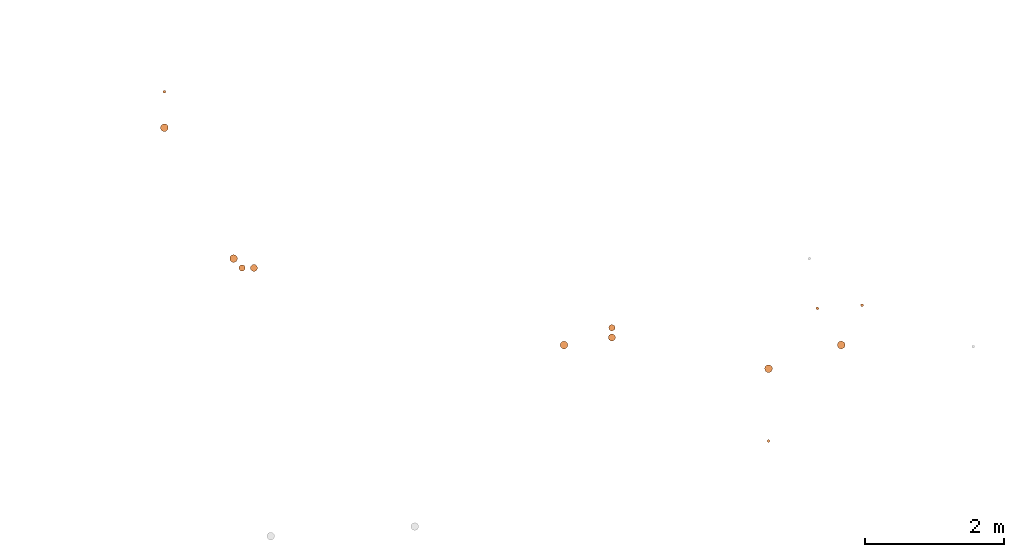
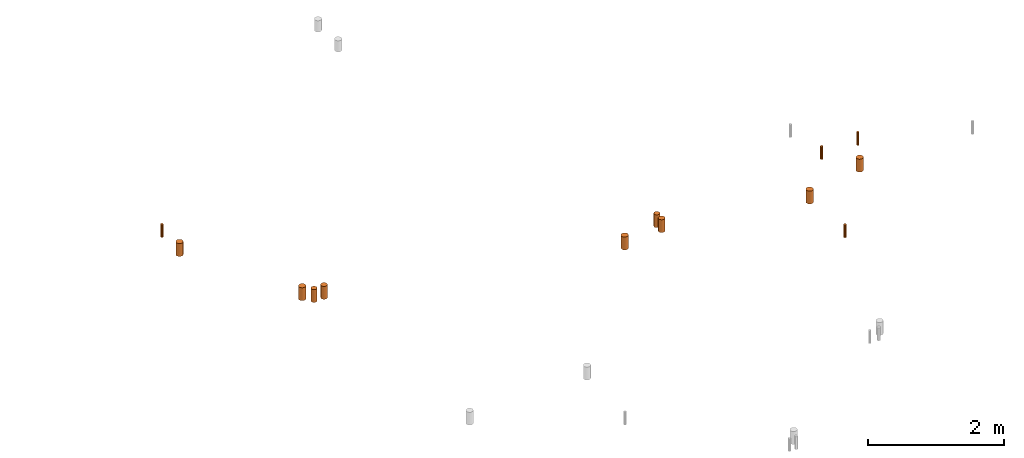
# One storey, part 4 of 16: 13 proxies.
"""IFC2X3 building model written with IfcOpenShell, lengths in centimetres."""

from ifc_helpers import new_model, entity, si_unit, converted_unit, derived_unit, direction, frame, origin, origin_2d_with_axis, place, context, subcontext, project, spatial, circle, extrude, source, transform, mapped, material, type_object, type_shapes, element, save


model = new_model("IFC2X3")

# Units and contexts
model_context = context("Model", 3, precision=0.001, world=origin(), true_north=direction((6.12303176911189e-17, 1.0)))
body_context = subcontext(model_context, "Body", "Model", "MODEL_VIEW")
ifc_project = project(units=[si_unit("LENGTHUNIT", "METRE", prefix="CENTI"), si_unit("AREAUNIT", "SQUARE_METRE"), si_unit("VOLUMEUNIT", "CUBIC_METRE"), converted_unit("PLANEANGLEUNIT", "DEGREE", entity("IfcRatioMeasure", 0.0174532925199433), si_unit("PLANEANGLEUNIT", "RADIAN"), dimensions=[0, 0, 0, 0, 0, 0, 0]), si_unit("MASSUNIT", "GRAM", prefix="KILO"), derived_unit("MASSDENSITYUNIT", [(si_unit("MASSUNIT", "GRAM", prefix="KILO"), 1), (si_unit("LENGTHUNIT", "METRE"), -3)]), si_unit("TIMEUNIT", "SECOND"), si_unit("FREQUENCYUNIT", "HERTZ"), si_unit("THERMODYNAMICTEMPERATUREUNIT", "DEGREE_CELSIUS"), derived_unit("THERMALTRANSMITTANCEUNIT", [(si_unit("MASSUNIT", "GRAM", prefix="KILO"), 1), (si_unit("THERMODYNAMICTEMPERATUREUNIT", "KELVIN"), -1), (si_unit("TIMEUNIT", "SECOND"), -3)]), derived_unit("VOLUMETRICFLOWRATEUNIT", [(si_unit("LENGTHUNIT", "METRE"), 3), (si_unit("TIMEUNIT", "SECOND"), -1)]), si_unit("ELECTRICCURRENTUNIT", "AMPERE"), si_unit("ELECTRICVOLTAGEUNIT", "VOLT"), si_unit("POWERUNIT", "WATT"), si_unit("FORCEUNIT", "NEWTON"), si_unit("ILLUMINANCEUNIT", "LUX"), si_unit("LUMINOUSFLUXUNIT", "LUMEN"), si_unit("LUMINOUSINTENSITYUNIT", "CANDELA"), derived_unit("USERDEFINED", [(si_unit("MASSUNIT", "GRAM", prefix="KILO"), -1), (si_unit("LENGTHUNIT", "METRE"), -2), (si_unit("TIMEUNIT", "SECOND"), 3), (si_unit("LUMINOUSFLUXUNIT", "LUMEN"), 1)]), derived_unit("LINEARVELOCITYUNIT", [(si_unit("LENGTHUNIT", "METRE"), 1), (si_unit("TIMEUNIT", "SECOND"), -1)]), si_unit("PRESSUREUNIT", "PASCAL"), derived_unit("USERDEFINED", [(si_unit("LENGTHUNIT", "METRE"), -2), (si_unit("MASSUNIT", "GRAM", prefix="KILO"), 1), (si_unit("TIMEUNIT", "SECOND"), -2)])], contexts=[model_context])

# Site, building, storey
site_placement = place(None, origin())
site = spatial("IfcSite", under=ifc_project, at=site_placement, Name="Default", CompositionType="ELEMENT")
building_placement = place(site_placement, origin())
building = spatial("IfcBuilding", under=site, at=building_placement, Name="CAGE 03", CompositionType="ELEMENT")
storey_placement = place(building_placement, frame((0.0, 0.0, 65.0)))
storey = spatial("IfcBuildingStorey", under=building, at=storey_placement, Name="Ac RDC", CompositionType="ELEMENT", Elevation=64.9999999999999)

# Proxies
ifc_material = material(Name="BBGO_Résa")
building_element_proxy_type_1 = type_object("IfcBuildingElementProxyType", Name="Ø40", PredefinedType="NOTDEFINED", material=ifc_material)
shared_shape_1 = source(origin(), body_context, "Body", "SweptSolid", [
    extrude(circle(Radius=2.0, at=origin_2d_with_axis()), frame((3587.36811694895, 4863.67409195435, 317.0)), (0.0, 0.0, 1.0), 22.9999999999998),
])
type_shapes(building_element_proxy_type_1, [shared_shape_1])
proxy_1_placement = place(storey_placement, frame((0.0, 0.0, -65.0)))
element("IfcBuildingElementProxy", 1, at=proxy_1_placement, inside=storey, type_object=building_element_proxy_type_1, material=ifc_material, Name="BBGO-Résa circ dalle:Ø40", ObjectType="Ø40", context=body_context, shape_type="MappedRepresentation", body=[
    mapped(shared_shape_1, transform((0.0, 0.0, 0.0), scale=1.0)),
])
building_element_proxy_type_2 = type_object("IfcBuildingElementProxyType", Name="Ø110", PredefinedType="NOTDEFINED", material=ifc_material)
shared_shape_2 = source(origin(), body_context, "Body", "SweptSolid", [
    extrude(circle(Radius=5.5, at=origin_2d_with_axis()), frame((3587.3660995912, 4812.16066607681, 317.0)), (0.0, 0.0, 1.0), 22.9999999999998),
])
type_shapes(building_element_proxy_type_2, [shared_shape_2])
proxy_2_placement = place(storey_placement, frame((0.0, 0.0, -65.0)))
element("IfcBuildingElementProxy", 2, at=proxy_2_placement, inside=storey, type_object=building_element_proxy_type_2, material=ifc_material, Name="BBGO-Résa circ dalle:Ø110", ObjectType="Ø110", context=body_context, shape_type="MappedRepresentation", body=[
    mapped(shared_shape_2, transform((0.0, 0.0, 0.0), scale=1.0)),
])
building_element_proxy_type_3 = type_object("IfcBuildingElementProxyType", Name="Ø110", PredefinedType="NOTDEFINED", material=ifc_material)
shared_shape_3 = source(origin(), body_context, "Body", "SweptSolid", [
    extrude(circle(Radius=5.5, at=origin_2d_with_axis()), frame((3686.59551345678, 4624.40254307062, 317.0)), (0.0, 0.0, 1.0), 22.9999999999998),
])
type_shapes(building_element_proxy_type_3, [shared_shape_3])
proxy_3_placement = place(storey_placement, frame((0.0, 0.0, -65.0)))
element("IfcBuildingElementProxy", 3, at=proxy_3_placement, inside=storey, type_object=building_element_proxy_type_3, material=ifc_material, Name="BBGO-Résa circ dalle:Ø110", ObjectType="Ø110", context=body_context, shape_type="MappedRepresentation", body=[
    mapped(shared_shape_3, transform((0.0, 0.0, 0.0), scale=1.0)),
])
building_element_proxy_type_4 = type_object("IfcBuildingElementProxyType", Name="Ø90", PredefinedType="NOTDEFINED", material=ifc_material)
shared_shape_4 = source(origin(), body_context, "Body", "SweptSolid", [
    extrude(circle(Radius=4.5, at=origin_2d_with_axis()), frame((3698.82015670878, 4610.91348814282, 317.0)), (0.0, 0.0, 1.0), 22.9999999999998),
])
type_shapes(building_element_proxy_type_4, [shared_shape_4])
proxy_4_placement = place(storey_placement, frame((0.0, 0.0, -65.0)))
element("IfcBuildingElementProxy", 4, at=proxy_4_placement, inside=storey, type_object=building_element_proxy_type_4, material=ifc_material, Name="BBGO-Résa circ dalle:Ø90", ObjectType="Ø90", context=body_context, shape_type="MappedRepresentation", body=[
    mapped(shared_shape_4, transform((0.0, 0.0, 0.0), scale=1.0)),
])
building_element_proxy_type_5 = type_object("IfcBuildingElementProxyType", Name="Ø100", PredefinedType="NOTDEFINED", material=ifc_material)
shared_shape_5 = source(origin(), body_context, "Body", "SweptSolid", [
    extrude(circle(Radius=5.0, at=origin_2d_with_axis()), frame((3715.82015670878, 4610.91348814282, 317.0)), (0.0, 0.0, 1.0), 22.9999999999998),
])
type_shapes(building_element_proxy_type_5, [shared_shape_5])
proxy_5_placement = place(storey_placement, frame((0.0, 0.0, -65.0)))
element("IfcBuildingElementProxy", 5, at=proxy_5_placement, inside=storey, type_object=building_element_proxy_type_5, material=ifc_material, Name="BBGO-Résa circ dalle:Ø100", ObjectType="Ø100", context=body_context, shape_type="MappedRepresentation", body=[
    mapped(shared_shape_5, transform((0.0, 0.0, 0.0), scale=1.0)),
])
building_element_proxy_type_6 = type_object("IfcBuildingElementProxyType", Name="Ø40", PredefinedType="NOTDEFINED", material=ifc_material)
shared_shape_6 = source(origin(), body_context, "Body", "SweptSolid", [
    extrude(circle(Radius=2.0, at=origin_2d_with_axis()), frame((4454.10108961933, 4362.71290139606, 317.0)), (0.0, 0.0, 1.0), 22.9999999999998),
])
type_shapes(building_element_proxy_type_6, [shared_shape_6])
proxy_6_placement = place(storey_placement, frame((0.0, 0.0, -65.0)))
element("IfcBuildingElementProxy", 6, at=proxy_6_placement, inside=storey, type_object=building_element_proxy_type_6, material=ifc_material, Name="BBGO-Résa circ dalle:Ø40", ObjectType="Ø40", context=body_context, shape_type="MappedRepresentation", body=[
    mapped(shared_shape_6, transform((0.0, 0.0, 0.0), scale=1.0)),
])
building_element_proxy_type_7 = type_object("IfcBuildingElementProxyType", Name="Ø110", PredefinedType="NOTDEFINED", material=ifc_material)
shared_shape_7 = source(origin(), body_context, "Body", "SweptSolid", [
    extrude(circle(Radius=5.5, at=origin_2d_with_axis()), frame((4454.0925796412, 4466.43810794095, 317.0)), (0.0, 0.0, 1.0), 22.9999999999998),
])
type_shapes(building_element_proxy_type_7, [shared_shape_7])
proxy_7_placement = place(storey_placement, frame((0.0, 0.0, -65.0)))
element("IfcBuildingElementProxy", 7, at=proxy_7_placement, inside=storey, type_object=building_element_proxy_type_7, material=ifc_material, Name="BBGO-Résa circ dalle:Ø110", ObjectType="Ø110", context=body_context, shape_type="MappedRepresentation", body=[
    mapped(shared_shape_7, transform((0.0, 0.0, 0.0), scale=1.0)),
])
building_element_proxy_type_8 = type_object("IfcBuildingElementProxyType", Name="Ø40", PredefinedType="NOTDEFINED", material=ifc_material)
shared_shape_8 = source(origin(), body_context, "Body", "SweptSolid", [
    extrude(circle(Radius=2.0, at=origin_2d_with_axis()), frame((4524.23548584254, 4552.88130371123, 317.0)), (0.0, 0.0, 1.0), 22.9999999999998),
])
type_shapes(building_element_proxy_type_8, [shared_shape_8])
proxy_8_placement = place(storey_placement, frame((0.0, 0.0, -65.0)))
element("IfcBuildingElementProxy", 8, at=proxy_8_placement, inside=storey, type_object=building_element_proxy_type_8, material=ifc_material, Name="BBGO-Résa circ dalle:Ø40", ObjectType="Ø40", context=body_context, shape_type="MappedRepresentation", body=[
    mapped(shared_shape_8, transform((0.0, 0.0, 0.0), scale=1.0)),
])
building_element_proxy_type_9 = type_object("IfcBuildingElementProxyType", Name="Ø40", PredefinedType="NOTDEFINED", material=ifc_material)
shared_shape_9 = source(origin(), body_context, "Body", "SweptSolid", [
    extrude(circle(Radius=2.0, at=origin_2d_with_axis()), frame((4588.23755228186, 4557.50295202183, 317.0)), (0.0, 0.0, 1.0), 22.9999999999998),
])
type_shapes(building_element_proxy_type_9, [shared_shape_9])
proxy_9_placement = place(storey_placement, frame((0.0, 0.0, -65.0)))
element("IfcBuildingElementProxy", 9, at=proxy_9_placement, inside=storey, type_object=building_element_proxy_type_9, material=ifc_material, Name="BBGO-Résa circ dalle:Ø40", ObjectType="Ø40", context=body_context, shape_type="MappedRepresentation", body=[
    mapped(shared_shape_9, transform((0.0, 0.0, 0.0), scale=1.0)),
])
building_element_proxy_type_10 = type_object("IfcBuildingElementProxyType", Name="Ø110", PredefinedType="NOTDEFINED", material=ifc_material)
shared_shape_10 = source(origin(), body_context, "Body", "SweptSolid", [
    extrude(circle(Radius=5.5, at=origin_2d_with_axis()), frame((4558.34913357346, 4500.38001415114, 317.0)), (0.0, 0.0, 1.0), 22.9999999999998),
])
type_shapes(building_element_proxy_type_10, [shared_shape_10])
proxy_10_placement = place(storey_placement, frame((0.0, 0.0, -65.0)))
element("IfcBuildingElementProxy", 10, at=proxy_10_placement, inside=storey, type_object=building_element_proxy_type_10, material=ifc_material, Name="BBGO-Résa circ dalle:Ø110", ObjectType="Ø110", context=body_context, shape_type="MappedRepresentation", body=[
    mapped(shared_shape_10, transform((0.0, 0.0, 0.0), scale=1.0)),
])
building_element_proxy_type_11 = type_object("IfcBuildingElementProxyType", Name="Ø110", PredefinedType="NOTDEFINED", material=ifc_material)
shared_shape_11 = source(origin(), body_context, "Body", "SweptSolid", [
    extrude(circle(Radius=5.5, at=origin_2d_with_axis()), frame((4160.6593673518, 4500.3447932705, 317.0)), (0.0, 0.0, 1.0), 22.9999999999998),
])
type_shapes(building_element_proxy_type_11, [shared_shape_11])
proxy_11_placement = place(storey_placement, frame((0.0, 0.0, -65.0)))
element("IfcBuildingElementProxy", 11, at=proxy_11_placement, inside=storey, type_object=building_element_proxy_type_11, material=ifc_material, Name="BBGO-Résa circ dalle:Ø110", ObjectType="Ø110", context=body_context, shape_type="MappedRepresentation", body=[
    mapped(shared_shape_11, transform((0.0, 0.0, 0.0), scale=1.0)),
])
building_element_proxy_type_12 = type_object("IfcBuildingElementProxyType", Name="Ø90", PredefinedType="NOTDEFINED", material=ifc_material)
shared_shape_12 = source(origin(), body_context, "Body", "SweptSolid", [
    extrude(circle(Radius=4.5, at=origin_2d_with_axis()), frame((4229.33361205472, 4525.12957820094, 317.0)), (0.0, 0.0, 1.0), 22.9999999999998),
])
type_shapes(building_element_proxy_type_12, [shared_shape_12])
proxy_12_placement = place(storey_placement, frame((0.0, 0.0, -65.0)))
element("IfcBuildingElementProxy", 12, at=proxy_12_placement, inside=storey, type_object=building_element_proxy_type_12, material=ifc_material, Name="BBGO-Résa circ dalle:Ø90", ObjectType="Ø90", context=body_context, shape_type="MappedRepresentation", body=[
    mapped(shared_shape_12, transform((0.0, 0.0, 0.0), scale=1.0)),
])
building_element_proxy_type_13 = type_object("IfcBuildingElementProxyType", Name="Ø100", PredefinedType="NOTDEFINED", material=ifc_material)
shared_shape_13 = source(origin(), body_context, "Body", "SweptSolid", [
    extrude(circle(Radius=5.0, at=origin_2d_with_axis()), frame((4229.33361205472, 4511.12957820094, 317.0)), (0.0, 0.0, 1.0), 22.9999999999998),
])
type_shapes(building_element_proxy_type_13, [shared_shape_13])
proxy_13_placement = place(storey_placement, frame((0.0, 0.0, -65.0)))
element("IfcBuildingElementProxy", 13, at=proxy_13_placement, inside=storey, type_object=building_element_proxy_type_13, material=ifc_material, Name="BBGO-Résa circ dalle:Ø100", ObjectType="Ø100", context=body_context, shape_type="MappedRepresentation", body=[
    mapped(shared_shape_13, transform((0.0, 0.0, 0.0), scale=1.0)),
])

save(model, "model.ifc")
